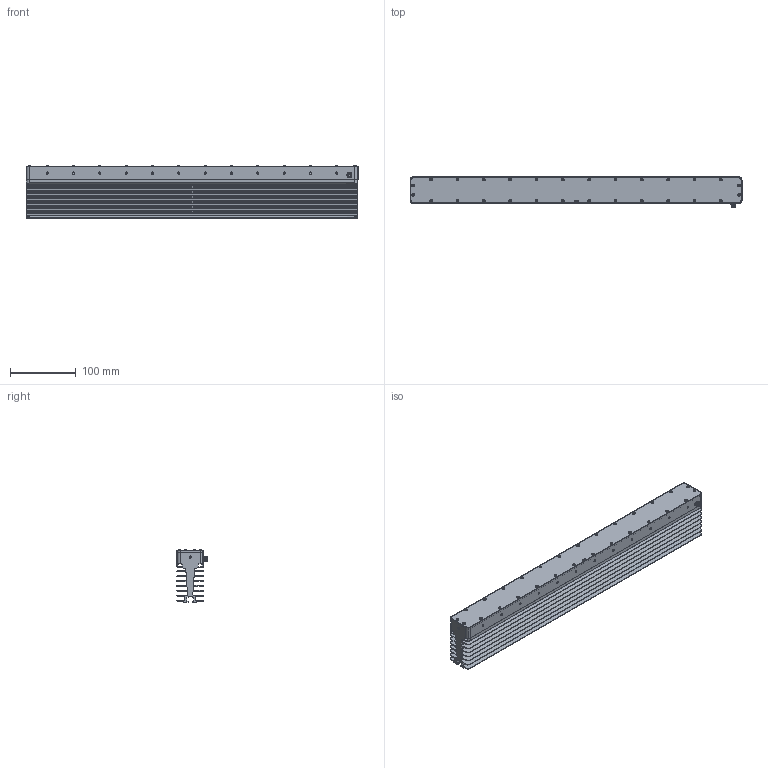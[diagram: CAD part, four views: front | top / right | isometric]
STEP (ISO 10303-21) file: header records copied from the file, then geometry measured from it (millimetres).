
FILE_DESCRIPTION(('STEP AP214'),'1');
FILE_NAME('Power-Line-480 Kundenmodell.stp','2019-10-23T13:38:27',(' '),(' '),'Spatial InterOp 3D',' ',' ');
FILE_SCHEMA(('AUTOMOTIVE_DESIGN { 1 0 10303 214 1 1 1 1 }'));
Length unit declared in the file: millimetre
Products named in the file (1): Volumenkörper
Bounding box: 504.2 x 46.2 x 80.24 mm (x, y, z)
Volume: 828259.1 mm3; surface area: 397533.1 mm2
Topology: 1 solids, 59 shells, 2733 faces, 7354 edges, 4740 vertices
Faces by surface type: cylinder 940, plane 885, cone 508, torus 306, sphere 72, extrusion 18, bspline 4
Entity records: 112570 total; most frequent: CARTESIAN_POINT 22957, ORIENTED_EDGE 14460, DIRECTION 14270, EDGE_CURVE 7230, AXIS2_PLACEMENT_3D 5940, VERTEX_POINT 4740, CIRCLE 3165, EDGE_LOOP 2932
